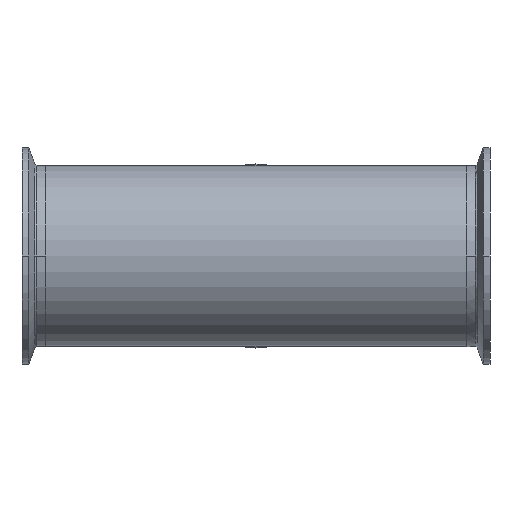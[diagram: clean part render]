
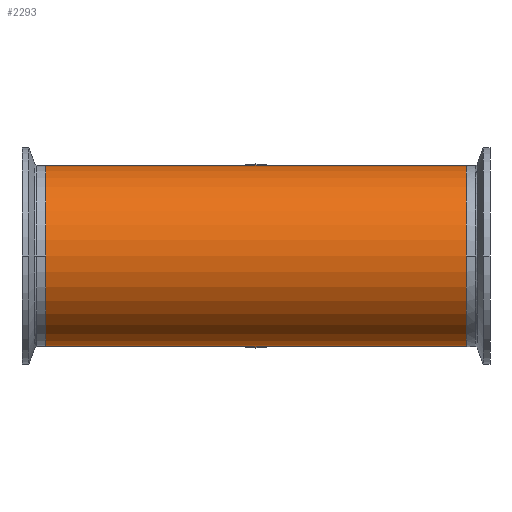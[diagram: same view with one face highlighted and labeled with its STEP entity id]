
A CAD part, front view. The second image highlights one B-rep face of the part: STEP entity #2293.
In plain terms, the highlighted cylindrical face has radius 38.1 mm (diameter 76.2 mm), a partial arc.
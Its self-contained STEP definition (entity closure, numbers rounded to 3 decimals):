
#142 = DIRECTION ( 'NONE',  ( -1., 0., 0. ) ) ;
#276 = CARTESIAN_POINT ( 'NONE',  ( 196.163, 0., 0. ) ) ;
#298 = CYLINDRICAL_SURFACE ( 'NONE', #3013, 38.1 ) ;
#340 = VERTEX_POINT ( 'NONE', #1140 ) ;
#468 = CARTESIAN_POINT ( 'NONE',  ( -88.4, 0., 38.1 ) ) ;
#656 = LINE ( 'NONE', #1362, #3721 ) ;
#858 = DIRECTION ( 'NONE',  ( 1., 0., 0. ) ) ;
#867 = EDGE_CURVE ( 'NONE', #4328, #340, #2475, .T. ) ;
#910 = CARTESIAN_POINT ( 'NONE',  ( 88.4, 0., 0. ) ) ;
#914 = DIRECTION ( 'NONE',  ( 0., 0., 1. ) ) ;
#1140 = CARTESIAN_POINT ( 'NONE',  ( -88.4, 0., -38.1 ) ) ;
#1274 = AXIS2_PLACEMENT_3D ( 'NONE', #910, #3716, #1297 ) ;
#1297 = DIRECTION ( 'NONE',  ( 0., 0., 1. ) ) ;
#1313 = CIRCLE ( 'NONE', #3314, 38.1 ) ;
#1362 = CARTESIAN_POINT ( 'NONE',  ( 196.163, 0., 38.1 ) ) ;
#1374 = VECTOR ( 'NONE', #4021, 1000. ) ;
#1385 = EDGE_CURVE ( 'NONE', #4705, #340, #1313, .T. ) ;
#1436 = CIRCLE ( 'NONE', #1274, 38.1 ) ;
#2293 = ADVANCED_FACE ( 'NONE', ( #3486 ), #298, .T. ) ;
#2475 = LINE ( 'NONE', #5061, #1374 ) ;
#2651 = ORIENTED_EDGE ( 'NONE', *, *, #1385, .T. ) ;
#2792 = ORIENTED_EDGE ( 'NONE', *, *, #867, .F. ) ;
#2978 = EDGE_CURVE ( 'NONE', #4390, #4705, #656, .T. ) ;
#3013 = AXIS2_PLACEMENT_3D ( 'NONE', #276, #142, #914 ) ;
#3271 = CARTESIAN_POINT ( 'NONE',  ( -88.4, 0., 0. ) ) ;
#3314 = AXIS2_PLACEMENT_3D ( 'NONE', #3271, #858, #3667 ) ;
#3486 = FACE_OUTER_BOUND ( 'NONE', #4098, .T. ) ;
#3573 = ORIENTED_EDGE ( 'NONE', *, *, #4782, .T. ) ;
#3667 = DIRECTION ( 'NONE',  ( 0., 0., 1. ) ) ;
#3716 = DIRECTION ( 'NONE',  ( -1., 0., 0. ) ) ;
#3721 = VECTOR ( 'NONE', #3799, 1000. ) ;
#3799 = DIRECTION ( 'NONE',  ( -1., 0., 0. ) ) ;
#4021 = DIRECTION ( 'NONE',  ( -1., 0., 0. ) ) ;
#4091 = CARTESIAN_POINT ( 'NONE',  ( 88.4, 0., -38.1 ) ) ;
#4098 = EDGE_LOOP ( 'NONE', ( #2792, #3573, #4713, #2651 ) ) ;
#4328 = VERTEX_POINT ( 'NONE', #4091 ) ;
#4390 = VERTEX_POINT ( 'NONE', #4909 ) ;
#4705 = VERTEX_POINT ( 'NONE', #468 ) ;
#4713 = ORIENTED_EDGE ( 'NONE', *, *, #2978, .T. ) ;
#4782 = EDGE_CURVE ( 'NONE', #4328, #4390, #1436, .T. ) ;
#4909 = CARTESIAN_POINT ( 'NONE',  ( 88.4, 0., 38.1 ) ) ;
#5061 = CARTESIAN_POINT ( 'NONE',  ( 196.163, 0., -38.1 ) ) ;
